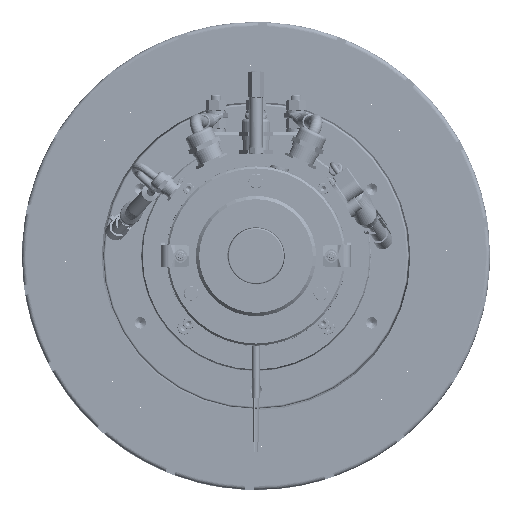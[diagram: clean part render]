
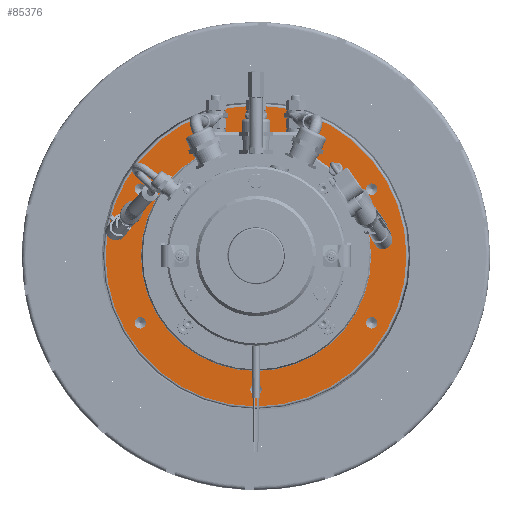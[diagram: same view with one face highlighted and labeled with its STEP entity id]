
A CAD part, left-side view. The second image highlights one B-rep face of the part: STEP entity #85376.
In plain terms, the highlighted planar face has unit normal (-1, 0, 0).
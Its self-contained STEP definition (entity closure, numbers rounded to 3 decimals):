
#3370=FACE_BOUND('',#13641,.T.);
#3371=FACE_BOUND('',#13642,.T.);
#3372=FACE_BOUND('',#13643,.T.);
#3373=FACE_BOUND('',#13644,.T.);
#3374=FACE_BOUND('',#13645,.T.);
#3375=FACE_BOUND('',#13646,.T.);
#3376=FACE_BOUND('',#13647,.T.);
#4954=CIRCLE('',#91143,86.106);
#4985=CIRCLE('',#91192,112.522);
#4990=CIRCLE('',#91199,4.25);
#4992=CIRCLE('',#91203,4.25);
#4994=CIRCLE('',#91207,4.25);
#4996=CIRCLE('',#91211,4.25);
#4998=CIRCLE('',#91215,4.25);
#5000=CIRCLE('',#91219,4.25);
#8848=FACE_OUTER_BOUND('',#13640,.T.);
#13640=EDGE_LOOP('',(#57745));
#13641=EDGE_LOOP('',(#57746));
#13642=EDGE_LOOP('',(#57747));
#13643=EDGE_LOOP('',(#57748));
#13644=EDGE_LOOP('',(#57749));
#13645=EDGE_LOOP('',(#57750));
#13646=EDGE_LOOP('',(#57751));
#13647=EDGE_LOOP('',(#57752));
#33694=VERTEX_POINT('',#130098);
#33720=VERTEX_POINT('',#130186);
#33724=VERTEX_POINT('',#130198);
#33727=VERTEX_POINT('',#130207);
#33730=VERTEX_POINT('',#130216);
#33733=VERTEX_POINT('',#130225);
#33736=VERTEX_POINT('',#130234);
#33739=VERTEX_POINT('',#130243);
#42752=EDGE_CURVE('',#33694,#33694,#4954,.T.);
#42796=EDGE_CURVE('',#33720,#33720,#4985,.T.);
#42803=EDGE_CURVE('',#33724,#33724,#4990,.T.);
#42807=EDGE_CURVE('',#33727,#33727,#4992,.T.);
#42811=EDGE_CURVE('',#33730,#33730,#4994,.T.);
#42815=EDGE_CURVE('',#33733,#33733,#4996,.T.);
#42819=EDGE_CURVE('',#33736,#33736,#4998,.T.);
#42823=EDGE_CURVE('',#33739,#33739,#5000,.T.);
#57745=ORIENTED_EDGE('',*,*,#42796,.F.);
#57746=ORIENTED_EDGE('',*,*,#42823,.F.);
#57747=ORIENTED_EDGE('',*,*,#42819,.F.);
#57748=ORIENTED_EDGE('',*,*,#42815,.F.);
#57749=ORIENTED_EDGE('',*,*,#42811,.F.);
#57750=ORIENTED_EDGE('',*,*,#42807,.F.);
#57751=ORIENTED_EDGE('',*,*,#42803,.F.);
#57752=ORIENTED_EDGE('',*,*,#42752,.T.);
#77402=PLANE('',#91236);
#85376=ADVANCED_FACE('',(#8848,#3370,#3371,#3372,#3373,#3374,#3375,#3376),
#77402,.F.);
#91143=AXIS2_PLACEMENT_3D('',#130099,#103641,#103642);
#91192=AXIS2_PLACEMENT_3D('',#130187,#103752,#103753);
#91199=AXIS2_PLACEMENT_3D('',#130200,#103768,#103769);
#91203=AXIS2_PLACEMENT_3D('',#130209,#103778,#103779);
#91207=AXIS2_PLACEMENT_3D('',#130218,#103788,#103789);
#91211=AXIS2_PLACEMENT_3D('',#130227,#103798,#103799);
#91215=AXIS2_PLACEMENT_3D('',#130236,#103808,#103809);
#91219=AXIS2_PLACEMENT_3D('',#130245,#103818,#103819);
#91236=AXIS2_PLACEMENT_3D('',#130271,#103857,#103858);
#103641=DIRECTION('center_axis',(1.,0.,0.));
#103642=DIRECTION('ref_axis',(0.,1.,0.));
#103752=DIRECTION('center_axis',(1.,0.,0.));
#103753=DIRECTION('ref_axis',(0.,1.,0.));
#103768=DIRECTION('center_axis',(-1.,0.,0.));
#103769=DIRECTION('ref_axis',(0.,-1.,0.));
#103778=DIRECTION('center_axis',(-1.,0.,0.));
#103779=DIRECTION('ref_axis',(0.,-1.,0.));
#103788=DIRECTION('center_axis',(-1.,0.,0.));
#103789=DIRECTION('ref_axis',(0.,-1.,0.));
#103798=DIRECTION('center_axis',(-1.,0.,0.));
#103799=DIRECTION('ref_axis',(0.,-1.,0.));
#103808=DIRECTION('center_axis',(-1.,0.,0.));
#103809=DIRECTION('ref_axis',(0.,-1.,0.));
#103818=DIRECTION('center_axis',(-1.,0.,0.));
#103819=DIRECTION('ref_axis',(0.,-1.,0.));
#103857=DIRECTION('center_axis',(1.,0.,0.));
#103858=DIRECTION('ref_axis',(0.,1.,0.));
#130098=CARTESIAN_POINT('',(29.537,-86.106,0.));
#130099=CARTESIAN_POINT('Origin',(29.537,0.,
0.));
#130186=CARTESIAN_POINT('',(29.537,112.522,0.));
#130187=CARTESIAN_POINT('Origin',(29.537,0.,
0.));
#130198=CARTESIAN_POINT('',(29.537,4.25,100.));
#130200=CARTESIAN_POINT('Origin',(29.537,0.,
100.));
#130207=CARTESIAN_POINT('',(29.537,-82.353,50.));
#130209=CARTESIAN_POINT('Origin',(29.537,-86.603,50.));
#130216=CARTESIAN_POINT('',(29.537,-82.353,-50.));
#130218=CARTESIAN_POINT('Origin',(29.537,-86.603,-50.));
#130225=CARTESIAN_POINT('',(29.537,4.25,-100.));
#130227=CARTESIAN_POINT('Origin',(29.537,0.,
-100.));
#130234=CARTESIAN_POINT('',(29.537,90.853,-50.));
#130236=CARTESIAN_POINT('Origin',(29.537,86.603,-50.));
#130243=CARTESIAN_POINT('',(29.537,90.853,50.));
#130245=CARTESIAN_POINT('Origin',(29.537,86.603,50.));
#130271=CARTESIAN_POINT('Origin',(29.537,0.,
118.177));
